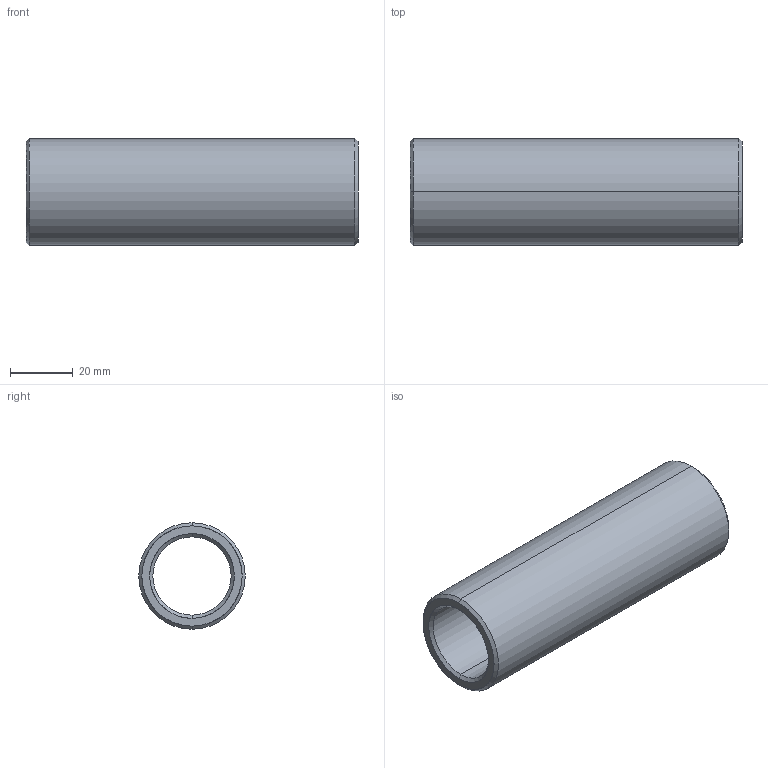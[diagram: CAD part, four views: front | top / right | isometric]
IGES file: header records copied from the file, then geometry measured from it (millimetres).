
Start section: START RECORD GO HERE.
Global section: file name: 352-25X106.igs; native system: DASSAULT SYSTEMES CATIA V5 R20 - www.3ds.com; preprocessor: CATIA Version 5 Release 20 ; author: Utente; organization: NB04-ASUS; date: 20210414.170615; units: millimetre
Bounding box: 106 x 34 x 34 mm (x, y, z)
Surface area: 20275.9 mm2 (no closed solid volume)
Topology: 0 solids, 0 shells, 14 faces, 88 edges, 88 vertices
Faces by surface type: revolution 12, plane 2
